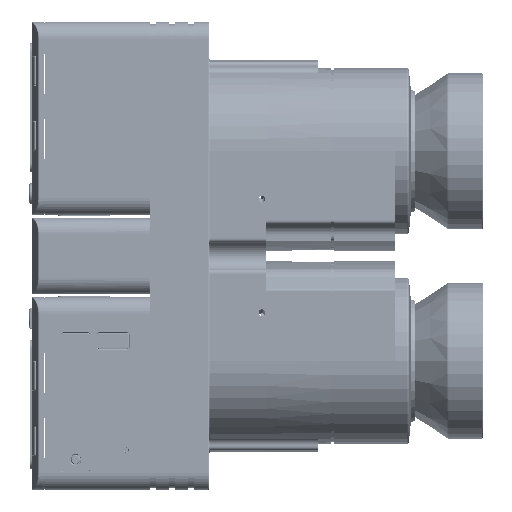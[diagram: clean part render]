
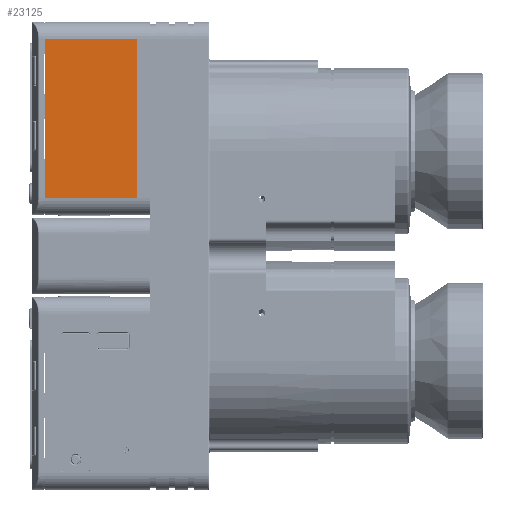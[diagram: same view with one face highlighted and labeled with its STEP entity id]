
A CAD part, left-side view. The second image highlights one B-rep face of the part: STEP entity #23125.
In plain terms, the highlighted planar face has unit normal (-1, 0, 0) as drawn and (1, 0, 0) by its records, which use the part's own axes.
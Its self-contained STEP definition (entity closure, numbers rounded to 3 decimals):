
#7264 = CARTESIAN_POINT ( 'NONE',  ( 48.7, 36.3, -14.8 ) ) ;
#15842 = ORIENTED_EDGE ( 'NONE', *, *, #68921, .F. ) ;
#16036 = CARTESIAN_POINT ( 'NONE',  ( 48.7, -40.7, -14.8 ) ) ;
#18205 = PLANE ( 'NONE',  #108552 ) ;
#20237 = EDGE_CURVE ( 'NONE', #139680, #121990, #139380, .T. ) ;
#23125 = ADVANCED_FACE ( 'NONE', ( #52936 ), #18205, .T. ) ;
#25839 = VECTOR ( 'NONE', #64510, 1000. ) ;
#31543 = ORIENTED_EDGE ( 'NONE', *, *, #89458, .F. ) ;
#32817 = EDGE_CURVE ( 'NONE', #53254, #82498, #56843, .T. ) ;
#38075 = DIRECTION ( 'NONE',  ( 0., 0., 1. ) ) ;
#39419 = CARTESIAN_POINT ( 'NONE',  ( 48.7, 0., 42.2 ) ) ;
#51152 = LINE ( 'NONE', #101821, #98516 ) ;
#52425 = DIRECTION ( 'NONE',  ( 1., 0., 0. ) ) ;
#52936 = FACE_OUTER_BOUND ( 'NONE', #142995, .T. ) ;
#53254 = VERTEX_POINT ( 'NONE', #67332 ) ;
#53417 = CARTESIAN_POINT ( 'NONE',  ( 48.7, 36.3, 42.2 ) ) ;
#56843 = LINE ( 'NONE', #7264, #25839 ) ;
#63154 = DIRECTION ( 'NONE',  ( 0., 1., 0. ) ) ;
#64510 = DIRECTION ( 'NONE',  ( 0., 0., 1. ) ) ;
#67332 = CARTESIAN_POINT ( 'NONE',  ( 48.7, 36.3, -2.2 ) ) ;
#68921 = EDGE_CURVE ( 'NONE', #121990, #82498, #90887, .T. ) ;
#82498 = VERTEX_POINT ( 'NONE', #53417 ) ;
#83599 = VECTOR ( 'NONE', #144393, 1000. ) ;
#89458 = EDGE_CURVE ( 'NONE', #53254, #139680, #51152, .T. ) ;
#90887 = LINE ( 'NONE', #39419, #83599 ) ;
#98516 = VECTOR ( 'NONE', #148715, 1000. ) ;
#101821 = CARTESIAN_POINT ( 'NONE',  ( 48.7, 36.3, -2.2 ) ) ;
#105743 = ORIENTED_EDGE ( 'NONE', *, *, #20237, .F. ) ;
#108387 = VECTOR ( 'NONE', #38075, 1000. ) ;
#108552 = AXIS2_PLACEMENT_3D ( 'NONE', #110045, #52425, #63154 ) ;
#110045 = CARTESIAN_POINT ( 'NONE',  ( 48.7, 36.3, -14.8 ) ) ;
#121990 = VERTEX_POINT ( 'NONE', #125210 ) ;
#124803 = CARTESIAN_POINT ( 'NONE',  ( 48.7, -40.7, -2.2 ) ) ;
#125210 = CARTESIAN_POINT ( 'NONE',  ( 48.7, -40.7, 42.2 ) ) ;
#139380 = LINE ( 'NONE', #16036, #108387 ) ;
#139680 = VERTEX_POINT ( 'NONE', #124803 ) ;
#142995 = EDGE_LOOP ( 'NONE', ( #105743, #31543, #145316, #15842 ) ) ;
#144393 = DIRECTION ( 'NONE',  ( 0., 1., 0. ) ) ;
#145316 = ORIENTED_EDGE ( 'NONE', *, *, #32817, .T. ) ;
#148715 = DIRECTION ( 'NONE',  ( 0., -1., 0. ) ) ;
